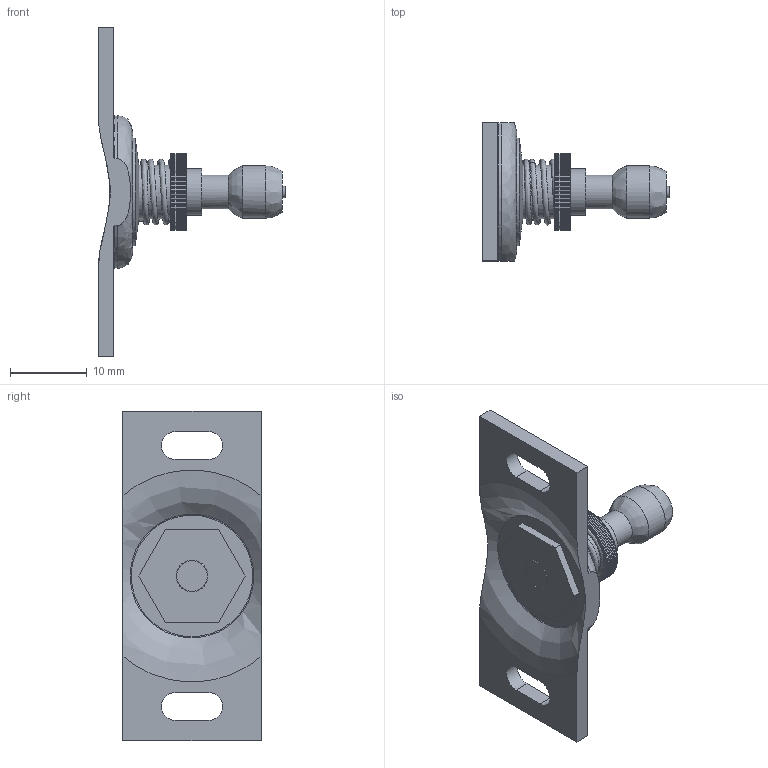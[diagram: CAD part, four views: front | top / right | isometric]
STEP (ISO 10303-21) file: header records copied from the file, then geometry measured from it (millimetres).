
FILE_DESCRIPTION (( 'STEP AP214' ), '1' );
FILE_NAME ('RG8NZ.STEP', '2017-03-07T07:14:39', ( '1' ), ( 'MICROSOFT' ), 'SwSTEP 2.0', 'SolidWorks 2012', '' );
FILE_SCHEMA (( 'AUTOMOTIVE_DESIGN' ));
Length unit declared in the file: millimetre
Products named in the file (1): RG8NZ
Bounding box: 24.5 x 18 x 43 mm (x, y, z)
Volume: 2266.9 mm3; surface area: 3534.4 mm2
Topology: 4 solids, 4 shells, 253 faces, 725 edges, 485 vertices
Faces by surface type: cylinder 198, plane 31, bspline 19, cone 5
Full cylindrical faces by diameter (mm): 1.5 x1, 4.134 x1, 4.4 x1, 5 x2, 6 x1, 6.8 x1, 7 x1, 7.2 x1, 9 x1, 10 x1, 14 x1
Entity records: 13015 total; most frequent: CARTESIAN_POINT 3530, DIRECTION 1504, ORIENTED_EDGE 1348, EDGE_CURVE 674, AXIS2_PLACEMENT_3D 635, VERTEX_POINT 464, CIRCLE 400, EDGE_LOOP 298
